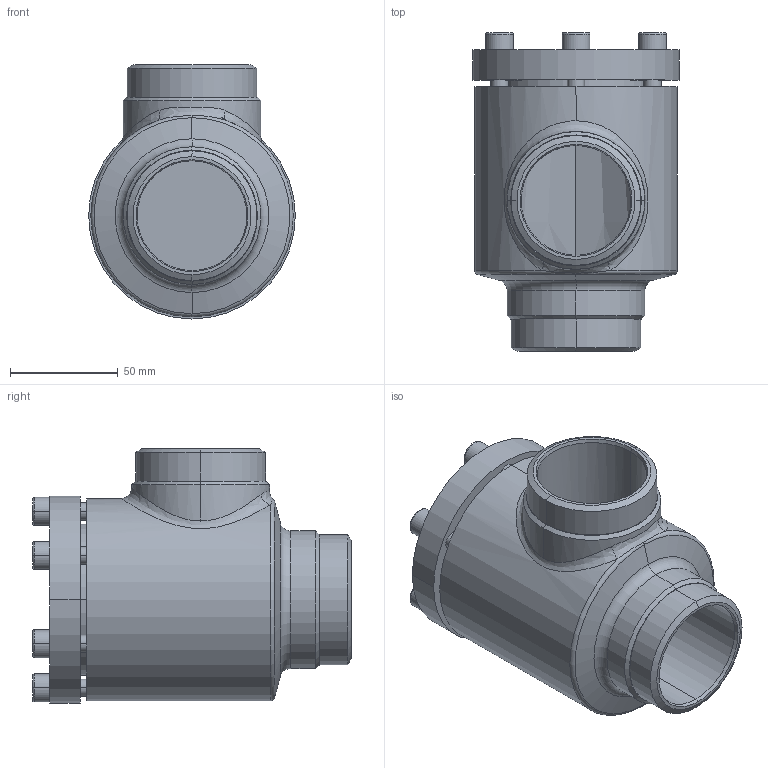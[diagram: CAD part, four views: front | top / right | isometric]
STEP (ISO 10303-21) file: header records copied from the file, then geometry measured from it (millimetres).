
FILE_DESCRIPTION (( 'STEP AP214' ), '1' );
FILE_NAME ('SS52400D15-DN050_R1_PS40.STEP', '2006-05-02T05:51:33', ( 'Herr Grams' ), ( 'AWP GmbH' ), 'SwSTEP 2.0', 'SolidWorks 2002296', '' );
FILE_SCHEMA (( 'AUTOMOTIVE_DESIGN' ));
Length unit declared in the file: millimetre
Products named in the file (5): SS52400D15-DN050_R1_PS40; Gehäuse16400-DN050_Standard; SS52300E15_Deck+Schr-DN40-50_Standard; Deckel52300E15-DN40-50_Standard; Zylinderschraube-DIN912_M 8x 25
Assembly tree (9 placements, depth 3):
  SS52400D15-DN050_R1_PS40
    Gehäuse16400-DN050_Standard
    SS52300E15_Deck+Schr-DN40-50_Standard
      Zylinderschraube-DIN912_M 8x 25  x6
      Deckel52300E15-DN40-50_Standard
Bounding box: 96 x 148 x 118 mm (x, y, z)
Volume: 451117.9 mm3; surface area: 108320.2 mm2
Topology: 8 solids, 8 shells, 176 faces, 381 edges, 239 vertices
Faces by surface type: plane 72, cylinder 58, cone 28, torus 16, bspline 2
Entity records: 12357 total; most frequent: CARTESIAN_POINT 9940, DIRECTION 477, ORIENTED_EDGE 382, AXIS2_PLACEMENT_3D 201, EDGE_CURVE 191, VERTEX_POINT 119, EDGE_LOOP 108, CIRCLE 104
